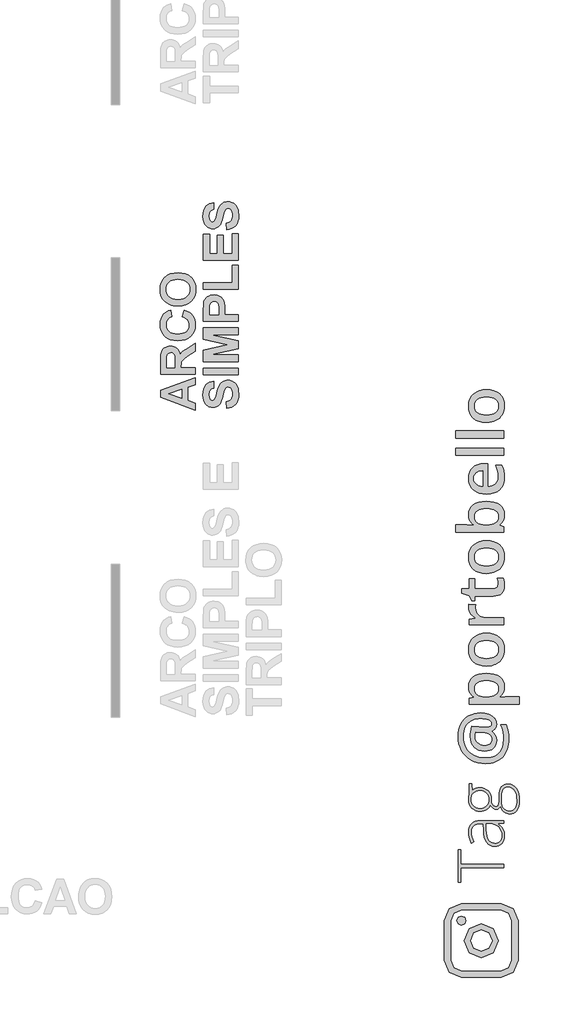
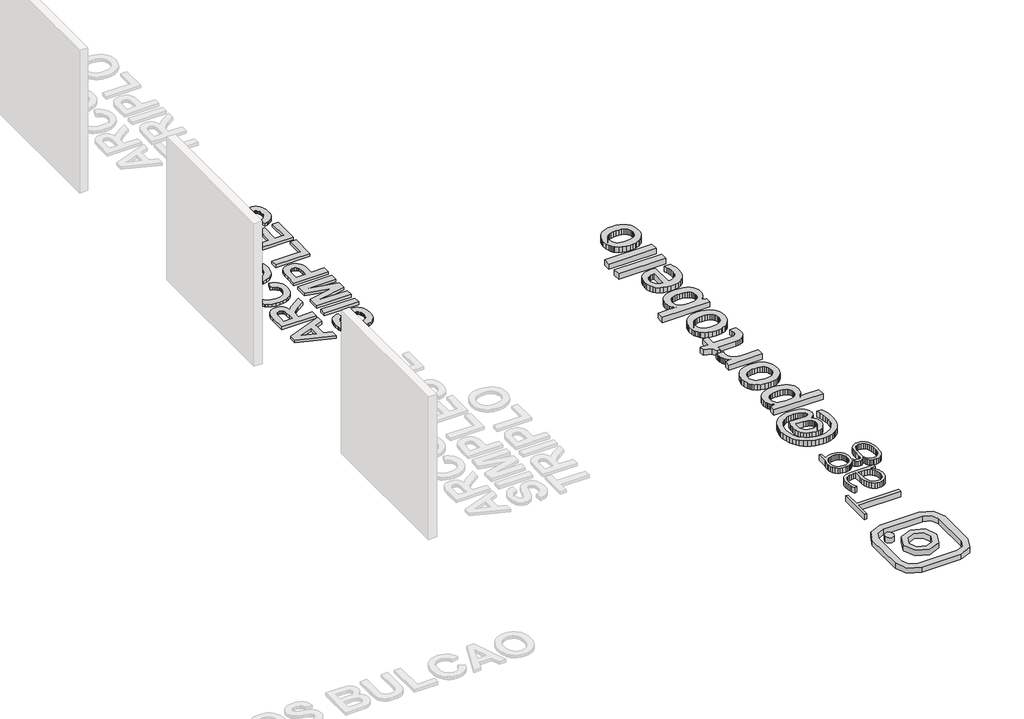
# One storey, part 8 of 12: 4 proxies.
"""IFC4 building model written with IfcOpenShell, lengths in millimetres."""

from ifc_helpers import new_model, si_unit, origin, origin_with_axes, place, context, project, spatial, polyline, outline, extrude, transform, mapped, element, save
from components import generic_models_d67f6705

model = new_model("IFC4")

# Units and contexts
model_context = context("Model", 3, world=origin())
ifc_project = project(units=[si_unit("LENGTHUNIT", "METRE", prefix="MILLI")], contexts=[model_context])

# Site, building, storey
site = spatial("IfcSite", under=ifc_project)
building = spatial("IfcBuilding", under=site)
storey = spatial("IfcBuildingStorey", under=building, Name="PORTOBELLO - SHOWROOM", Elevation=0.0)

# Proxies
placement = place(None, origin())
generic_models_shape = generic_models_d67f6705(model_context)
element("IfcBuildingElementProxy", 1, Name="Blks_Instagram1 : Único 2", ObjectType="Blks_Instagram1 : Único 2", at=placement, inside=storey, context=model_context, shape_type="MappedRepresentation", body=[
    mapped(generic_models_shape, transform((19675.753776, -13159.2204865, 0.0), x_axis=(-1.0, 0.0, 0.0), y_axis=(0.0, -1.0, 0.0), z_axis=(0.0, 0.0, 1.0))),
])
element("IfcBuildingElementProxy", 2, Name="600mm Arial", ObjectType="600mm Arial", at=placement, inside=storey, context=model_context, shape_type="SweptSolid", body=[
    extrude(outline(polyline([(14636.2154342, -3238.3642537), (14636.2154342, -3360.8864763), (14500.1808475, -3408.86296), (14500.1808475, -3640.0913925), (14636.2154342, -3687.4605789), (14636.2154342, -3811.652869), (14024.0597942, -3588.1674766), (14024.0597942, -3463.9751865), (14636.2154342, -3238.3642537)]), holes=[polyline([(14393.2965295, -3446.2117416), (14169.8111371, -3525.0085613), (14393.2965295, -3602.7426109), (14393.2965295, -3446.2117416)])]), origin_with_axes(), (0.0, 0.0, 1.0), 50.0),
    extrude(outline(polyline([(14636.2154342, -3180.0637166), (14024.0597942, -3180.0637166), (14024.0597942, -2922.5696776), (14028.1970068, -2838.6867433), (14033.3685226, -2806.7087468), (14040.6086446, -2781.3730642), (14050.4962032, -2760.4592647), (14063.6100284, -2741.7469178), (14079.9501204, -2725.2360235), (14099.516479, -2710.9265818), (14121.4645816, -2699.3689558), (14144.9499054, -2691.1135086), (14169.9724504, -2686.1602403), (14196.5322166, -2684.5091509), (14229.6394064, -2686.8956394), (14259.7290879, -2694.0551047), (14286.8012612, -2705.987547), (14310.8559262, -2722.6929662), (14331.3142527, -2744.1523843), (14347.5974105, -2770.3468233), (14359.7053997, -2801.276283), (14367.6382201, -2836.9407636), (14392.0060228, -2803.1218974), (14418.6511901, -2775.7555645), (14457.2525223, -2747.4403297), (14517.4888195, -2710.7747575), (14636.2154342, -2635.92537), (14636.2154342, -2772.1117809), (14496.3852397, -2860.7771812), (14442.6963661, -2903.6106162), (14413.4132513, -2930.3886298), (14399.0089193, -2949.708274), (14389.9563945, -2970.1666005), (14385.1739286, -2997.3241749), (14383.5797733, -3036.7415628), (14383.5797733, -3063.4626423), (14636.2154342, -3063.4626423), (14636.2154342, -3180.0637166)]), holes=[polyline([(14276.6954552, -3063.4626423), (14276.6954552, -2967.3578506), (14274.9304975, -2891.502627), (14269.6356245, -2850.6808642), (14260.0327366, -2829.918889), (14245.343734, -2814.2430285), (14225.9671558, -2804.393426), (14202.3015406, -2801.1102252), (14176.0928681, -2805.4372182), (14155.4637393, -2818.4181972), (14140.907583, -2839.2940405), (14132.9178284, -2867.3056267), (14130.9441123, -2962.0439996), (14130.9441123, -3063.4626423), (14276.6954552, -3063.4626423)])]), origin_with_axes(), (0.0, 0.0, 1.0), 50.0),
    extrude(outline(polyline([(14403.0132856, -2169.5210728), (14441.8803104, -2052.9199986), (14487.9827127, -2069.022865), (14527.7559388, -2089.699439), (14561.1999888, -2114.9497204), (14588.3148627, -2144.7737094), (14609.2713627, -2179.0480486), (14624.2402913, -2217.6493808), (14633.2216485, -2260.577706), (14636.2154342, -2307.8330242), (14631.1008526, -2366.2189625), (14615.7571077, -2419.1582035), (14590.1841996, -2466.6507472), (14554.3821282, -2508.6965936), (14509.7078233, -2543.1037791), (14457.5182149, -2567.6803402), (14397.8133028, -2582.4262768), (14330.5930872, -2587.341589), (14259.7101099, -2582.3835762), (14197.215426, -2567.5095378), (14143.1090356, -2542.7194738), (14119.2014504, -2526.6059322), (14097.3909386, -2508.0133842), (14061.0574821, -2465.2226498), (14035.1050132, -2416.1786514), (14019.5335318, -2360.881389), (14014.343038, -2299.3308626), (14018.6225859, -2245.5091427), (14031.4612296, -2197.0012739), (14052.8589691, -2153.8072562), (14082.8158043, -2115.9270895), (14105.2193799, -2096.2183955), (14132.0448386, -2079.1476491), (14163.2921805, -2064.7148501), (14198.9614057, -2052.9199986), (14218.394918, -2169.5210728), (14197.0398792, -2176.8703186), (14178.0665842, -2187.3794079), (14161.4750333, -2201.0483408), (14147.2652262, -2217.8771173), (14135.8736581, -2237.2774181), (14127.7368237, -2258.6609241), (14122.854723, -2282.0276351), (14121.2273561, -2307.3775513), (14124.1831858, -2342.0267068), (14133.0506747, -2373.2503262), (14147.8298229, -2401.0484094), (14168.5206304, -2425.4209566), (14195.8252846, -2445.2482633), (14230.4459731, -2459.4106252), (14272.3826957, -2467.9080423), (14321.6354526, -2470.7405147), (14373.7681269, -2467.9934435), (14417.8161564, -2459.7522299), (14453.7795411, -2446.0168739), (14481.6582811, -2426.7873754), (14502.5151464, -2403.1549718), (14517.4129074, -2376.2109003), (14526.3515639, -2345.9551609), (14529.3311161, -2312.3877537), (14527.4285677, -2287.3984203), (14521.7209223, -2264.2025116), (14512.20818, -2242.8000276), (14498.8903409, -2223.1909684), (14481.4827342, -2205.8023397), (14459.7006894, -2191.0611476), (14433.5442066, -2178.967392), (14403.0132856, -2169.5210728)])), origin_with_axes(), (0.0, 0.0, 1.0), 50.0),
    extrude(outline(polyline([(14333.9332221, -1975.185949), (14289.126071, -1973.4684365), (14248.0765717, -1968.3158988), (14210.7847242, -1959.7283359), (14177.2505285, -1947.7057479), (14133.0127186, -1923.4707916), (14093.5194186, -1891.7584877), (14061.1998174, -1854.6184645), (14038.4831042, -1814.1003503), (14027.9218253, -1784.9311037), (14020.3780546, -1753.5983606), (14015.8517922, -1720.102121), (14014.343038, -1684.4423849), (14019.5762324, -1621.3404038), (14035.2758155, -1564.8807365), (14061.4417874, -1515.063383), (14098.074148, -1471.8883433), (14120.0281813, -1453.2068357), (14144.024726, -1437.0161958), (14198.14535, -1412.107519), (14260.4360199, -1397.162313), (14330.8967358, -1392.1805776), (14400.8782562, -1397.1243569), (14462.7941099, -1411.9556947), (14516.6442968, -1436.6745911), (14540.5447652, -1452.7418737), (14562.4288169, -1471.281046), (14598.9615428, -1514.1714151), (14625.056347, -1563.7420541), (14640.7132296, -1619.992963), (14645.9321904, -1682.9241418), (14640.7369521, -1746.5195519), (14625.1512372, -1803.2449118), (14599.1750457, -1853.1002214), (14562.8083777, -1896.0854807), (14517.3322507, -1930.6919356), (14464.0276824, -1955.4108319), (14402.8946729, -1970.2421698), (14333.9332221, -1975.185949)]), holes=[polyline([(14329.6821413, -1858.5848748), (14378.1046089, -1855.4867098), (14420.2833015, -1846.192215), (14456.2182192, -1830.7013903), (14485.9093619, -1809.0142358), (14509.1574602, -1782.5541043), (14525.7632447, -1752.7443488), (14535.7267154, -1719.5849694), (14539.0478723, -1683.0759661), (14535.750438, -1646.6049188), (14525.8581349, -1613.5594076), (14509.3709631, -1583.9394326), (14486.2889227, -1557.7449936), (14456.6120135, -1536.3235316), (14420.3402356, -1521.0224873), (14377.4735891, -1511.8418608), (14328.0120738, -1508.7816519), (14279.2385125, -1511.7612041), (14237.0693088, -1520.6998607), (14201.5044629, -1535.5976216), (14172.5439748, -1556.454487), (14150.0929541, -1582.2456426), (14134.0565108, -1611.9462743), (14124.4346448, -1645.5563821), (14121.2273561, -1683.0759661), (14124.4726009, -1720.6335061), (14134.2083351, -1754.3574822), (14150.4345588, -1784.2478943), (14173.151272, -1810.3047424), (14202.4059198, -1831.4273003), (14238.2459473, -1846.5148417), (14280.6713544, -1855.5673665), (14329.6821413, -1858.5848748)])]), origin_with_axes(), (0.0, 0.0, 1.0), 50.0),
    extrude(outline(polyline([(15187.6316533, -3782.5026004), (15177.9148971, -3665.9015261), (15205.9834174, -3658.8416954), (15230.0665494, -3648.8972028), (15250.1642932, -3636.0680481), (15266.2766487, -3620.3542315), (15278.6313523, -3601.7083077), (15287.4561407, -3580.0828318), (15292.7510137, -3555.4778037), (15294.5159713, -3527.8932233), (15292.9550276, -3498.9042681), (15288.2721964, -3473.7298988), (15280.4674777, -3452.3701154), (15269.5408715, -3434.824918), (15256.5266809, -3421.1417515), (15242.4592092, -3411.3680612), (15227.3384563, -3405.503847), (15211.1644222, -3403.549109), (15191.3323709, -3406.7943537), (15174.6506743, -3416.5300879), (15160.549991, -3434.3884231), (15148.4609799, -3462.0014704), (15122.4990219, -3563.1164645), (15109.8311806, -3610.0491561), (15095.6640742, -3649.4285879), (15079.9977026, -3681.25476), (15062.8320659, -3705.5276724), (15036.2533217, -3730.7020418), (15006.9227618, -3748.6837341), (14974.8403861, -3759.4727495), (14940.0061947, -3763.069088), (14917.0807231, -3761.4179986), (14894.914373, -3756.4647303), (14873.5071446, -3748.2092831), (14852.8590376, -3736.6516571), (14833.795597, -3721.9816326), (14817.1423674, -3704.3889901), (14802.8993488, -3683.8737294), (14791.0665413, -3660.4358507), (14781.7673019, -3634.2556453), (14775.1249881, -3605.5134046), (14769.8111371, -3540.3428172), (14773.122805, -3486.4309517), (14783.0578086, -3439.6263619), (14799.616148, -3399.929048), (14822.7978232, -3367.3390097), (14851.5021078, -3341.7518681), (14884.6282757, -3323.0632437), (14922.1763267, -3311.2731367), (14964.1462609, -3306.3815471), (14964.1462609, -3422.9826214), (14942.4780844, -3428.2537718), (14924.0836196, -3435.8687101), (14908.9628667, -3445.8274363), (14897.1158256, -3458.1299504), (14888.1819135, -3473.2886594), (14881.8005478, -3491.8159704), (14876.6954552, -3538.9763984), (14882.1231745, -3588.6229495), (14888.9078236, -3608.8914956), (14898.4063323, -3626.1235555), (14914.7274462, -3641.3818992), (14935.7551139, -3646.4680137), (14955.6061431, -3641.8373721), (14972.3447739, -3627.9454472), (14982.0662746, -3611.9801716), (14991.9490887, -3587.6171134), (15012.1986567, -3513.6976498), (15033.2642805, -3434.8059399), (15055.3167623, -3379.5608671), (15082.0188638, -3340.8456667), (15117.0333466, -3311.5435738), (15137.7668546, -3300.7830254), (15160.7967055, -3293.0969195), (15186.1228991, -3288.4852559), (15213.7454355, -3286.9480347), (15239.4417009, -3288.765182), (15264.3029326, -3294.2166238), (15288.3291305, -3303.3023602), (15311.5202947, -3316.0223911), (15332.832633, -3332.0683234), (15351.2223532, -3351.1317641), (15366.6894553, -3373.2127129), (15379.2339394, -3398.3111701), (15388.9317175, -3426.5552373), (15395.8587019, -3458.0730163), (15401.4002894, -3530.9297097), (15397.9889869, -3585.4156609), (15387.7550791, -3633.1833861), (15370.6985661, -3674.2328854), (15346.819448, -3708.5641588), (15316.4023953, -3736.4144316), (15279.7320786, -3758.0209295), (15236.8084979, -3773.3836524), (15187.6316533, -3782.5026004)])), origin_with_axes(), (0.0, 0.0, 1.0), 50.0),
    extrude(outline(polyline([(15391.6835332, -3189.7804728), (14779.5278933, -3189.7804728), (14779.5278933, -3073.1793985), (15391.6835332, -3073.1793985), (15391.6835332, -3189.7804728)])), origin_with_axes(), (0.0, 0.0, 1.0), 50.0),
    extrude(outline(polyline([(15391.6835332, -2956.5783242), (14779.5278933, -2956.5783242), (14779.5278933, -2756.7775251), (15197.0447608, -2660.2172604), (14779.5278933, -2563.6569958), (14779.5278933, -2363.8561966), (15391.6835332, -2363.8561966), (15391.6835332, -2480.4572709), (14909.7931559, -2485.315649), (15391.6835332, -2591.8963185), (15391.6835332, -2728.3863781), (14909.7931559, -2835.1188719), (15391.6835332, -2839.9772499), (15391.6835332, -2956.5783242)])), origin_with_axes(), (0.0, 0.0, 1.0), 50.0),
    extrude(outline(polyline([(15391.6835332, -2247.2551224), (14779.5278933, -2247.2551224), (14779.5278933, -2050.0353366), (14781.805258, -1957.384548), (14788.6373522, -1903.8285208), (14797.4858631, -1878.7063411), (14810.3672074, -1855.7191908), (14827.281385, -1834.86707), (14848.228396, -1816.1499786), (14872.8571467, -1800.706599), (14900.8165433, -1789.6756136), (14932.1065858, -1783.0570223), (14966.7272742, -1780.8508252), (15018.2906074, -1786.03183), (15040.7273945, -1792.508086), (15060.934262, -1801.5748443), (15095.0188208, -1825.1076132), (15120.9048666, -1854.2578818), (15139.0288943, -1886.4636147), (15149.8273987, -1919.1627766), (15156.3178882, -1974.0093106), (15158.4813847, -2048.9725664), (15158.4813847, -2130.6540481), (15391.6835332, -2130.6540481), (15391.6835332, -2247.2551224)]), holes=[polyline([(14886.4122114, -2130.6540481), (15051.5970666, -2130.6540481), (15051.5970666, -2058.2338496), (15049.3197019, -1993.0063281), (15042.4876077, -1953.7028084), (15030.7781573, -1930.2079956), (15013.8687242, -1912.4065946), (14992.7841224, -1901.1905733), (14968.549166, -1897.4518995), (14939.5886779, -1902.7088164), (14916.1697772, -1918.4795672), (14899.3931903, -1942.2590506), (14890.3596436, -1971.5421655), (14886.4122114, -2066.7360113), (14886.4122114, -2130.6540481)])]), origin_with_axes(), (0.0, 0.0, 1.0), 50.0),
    extrude(outline(polyline([(15391.6835332, -1683.6832633), (14779.5278933, -1683.6832633), (14779.5278933, -1567.0821891), (15284.7992152, -1567.0821891), (15284.7992152, -1256.145991), (15391.6835332, -1256.145991), (15391.6835332, -1683.6832633)])), origin_with_axes(), (0.0, 0.0, 1.0), 50.0),
    extrude(outline(polyline([(15391.6835332, -1168.6951853), (14779.5278933, -1168.6951853), (14779.5278933, -712.0076443), (14886.4122114, -712.0076443), (14886.4122114, -1052.094111), (15022.446798, -1052.094111), (15022.446798, -731.4411567), (15129.3311161, -731.4411567), (15129.3311161, -1052.094111), (15284.7992152, -1052.094111), (15284.7992152, -702.2908881), (15391.6835332, -702.2908881), (15391.6835332, -1168.6951853)])), origin_with_axes(), (0.0, 0.0, 1.0), 50.0),
    extrude(outline(polyline([(15187.6316533, -634.2735948), (15177.9148971, -517.6725205), (15205.9834174, -510.6126899), (15230.0665494, -500.6681972), (15250.1642932, -487.8390425), (15266.2766487, -472.1252259), (15278.6313523, -453.4793021), (15287.4561407, -431.8538262), (15292.7510137, -407.2487981), (15294.5159713, -379.6642178), (15292.9550276, -350.6752625), (15288.2721964, -325.5008932), (15280.4674777, -304.1411098), (15269.5408715, -286.5959124), (15256.5266809, -272.9127459), (15242.4592092, -263.1390556), (15227.3384563, -257.2748415), (15211.1644222, -255.3201034), (15191.3323709, -258.5653481), (15174.6506743, -268.3010824), (15160.549991, -286.1594175), (15148.4609799, -313.7724648), (15122.4990219, -414.887459), (15109.8311806, -461.8201505), (15095.6640742, -501.1995823), (15079.9977026, -533.0257544), (15062.8320659, -557.2986669), (15036.2533217, -582.4730362), (15006.9227618, -600.4547285), (14974.8403861, -611.243744), (14940.0061947, -614.8400824), (14917.0807231, -613.188993), (14894.914373, -608.2357247), (14873.5071446, -599.9802775), (14852.8590376, -588.4226515), (14833.795597, -573.752627), (14817.1423674, -556.1599845), (14802.8993488, -535.6447239), (14791.0665413, -512.2068452), (14781.7673019, -486.0266398), (14775.1249881, -457.284399), (14769.8111371, -392.1138116), (14773.122805, -338.2019461), (14783.0578086, -291.3973564), (14799.616148, -251.7000424), (14822.7978232, -219.1100042), (14851.5021078, -193.5228625), (14884.6282757, -174.8342382), (14922.1763267, -163.0441312), (14964.1462609, -158.1525415), (14964.1462609, -274.7536158), (14942.4780844, -280.0247662), (14924.0836196, -287.6397045), (14908.9628667, -297.5984307), (14897.1158256, -309.9009448), (14888.1819135, -325.0596538), (14881.8005478, -343.5869648), (14876.6954552, -390.7473928), (14882.1231745, -440.3939439), (14888.9078236, -460.6624901), (14898.4063323, -477.8945499), (14914.7274462, -493.1528936), (14935.7551139, -498.2390081), (14955.6061431, -493.6083665), (14972.3447739, -479.7164417), (14982.0662746, -463.751166), (14991.9490887, -439.3881079), (15012.1986567, -365.4686443), (15033.2642805, -286.5769343), (15055.3167623, -231.3318615), (15082.0188638, -192.6166611), (15117.0333466, -163.3145682), (15137.7668546, -152.5540199), (15160.7967055, -144.8679139), (15186.1228991, -140.2562503), (15213.7454355, -138.7190291), (15239.4417009, -140.5361764), (15264.3029326, -145.9876182), (15288.3291305, -155.0733546), (15311.5202947, -167.7933855), (15332.832633, -183.8393179), (15351.2223532, -202.9027585), (15366.6894553, -224.9837074), (15379.2339394, -250.0821645), (15388.9317175, -278.3262317), (15395.8587019, -309.8440107), (15401.4002894, -382.7007041), (15397.9889869, -437.1866553), (15387.7550791, -484.9543805), (15370.6985661, -526.0038798), (15346.819448, -560.3351532), (15316.4023953, -588.185426), (15279.7320786, -609.7919239), (15236.8084979, -625.1546469), (15187.6316533, -634.2735948)])), origin_with_axes(), (0.0, 0.0, 1.0), 50.0),
])
element("IfcBuildingElementProxy", 3, Name="80mm OpenSans Bold", ObjectType="80mm OpenSans Bold", at=placement, inside=storey, context=model_context, shape_type="SweptSolid", body=[
    extrude(outline(polyline([(19665.5738359, -9147.8848841), (19703.6794506, -9149.4322439), (19740.1175221, -9154.0743235), (19774.8880504, -9161.8111229), (19807.9910356, -9172.642642), (19838.4725228, -9186.2834455), (19865.378557, -9202.4480981), (19888.7091384, -9221.1365999), (19908.4642668, -9242.3489507), (19924.1857436, -9265.694555), (19935.4153698, -9290.782817), (19942.1531456, -9317.6137367), (19944.3990708, -9346.1873141), (19938.6903645, -9386.8092664), (19931.5544816, -9404.9569433), (19921.5642455, -9421.6624208), (19909.1402978, -9436.3398052), (19894.70328, -9448.403203), (19878.2531921, -9457.8526142), (19859.790034, -9464.6880389), (19859.790034, -9471.4183032), (19896.8064876, -9501.5843092), (19923.2468116, -9538.240213), (19939.111006, -9580.604823), (19944.3990708, -9627.896948), (19940.8461523, -9670.5620163), (19930.1873967, -9708.4197529), (19912.422804, -9741.4701579), (19887.5523742, -9769.7132313), (19856.6126883, -9792.3227129), (19820.640327, -9808.4723426), (19779.6352904, -9818.1621204), (19733.5975786, -9821.3920464), (19680.4540296, -9817.1105166), (19632.5534767, -9804.2659274), (19589.8959199, -9782.8582787), (19552.4813591, -9752.8875705), (19522.0374293, -9715.7058649), (19500.2917651, -9672.6652238), (19487.2443665, -9623.7656474), (19482.8952337, -9569.0071354), (19484.7280289, -9524.6895469), (19490.2264144, -9475.865085), (19498.9697489, -9427.6415395), (19510.5373906, -9385.1267003), (19761.7204686, -9397.385396), (19774.4598975, -9397.385396), (19812.3176341, -9393.7798973), (19839.3588746, -9382.9634011), (19848.8233087, -9374.851029), (19855.5836188, -9364.9359075), (19860.9918669, -9339.6974164), (19857.5290859, -9318.9432643), (19847.1407426, -9300.4275261), (19829.8268373, -9284.1502016), (19805.5873698, -9270.1112909), (19775.984723, -9258.8065501), (19742.5812795, -9250.7317353), (19705.3770396, -9245.8868463), (19664.372003, -9244.2718834), (19619.2807345, -9246.6905721), (19577.0287963, -9253.9466383), (19537.6161883, -9266.0400819), (19501.0429106, -9282.9709031), (19467.9023682, -9304.3635288), (19438.7879659, -9329.8423865), (19413.699704, -9359.4074761), (19392.6375822, -9393.0587975), (19375.9696621, -9430.0602282), (19364.0640048, -9469.6756455), (19356.9206105, -9511.9050493), (19354.539479, -9556.7484398), (19357.5290384, -9613.7228311), (19366.4977165, -9666.8663801), (19381.4455133, -9716.1790866), (19402.3724288, -9761.6609508), (19428.8503101, -9802.6509644), (19460.4510041, -9838.4881195), (19497.174511, -9869.1724159), (19539.0208306, -9894.7038538), (19585.2087716, -9914.7894863), (19634.9571425, -9929.1363667), (19688.2659435, -9937.7444949), (19745.1351745, -9940.6138709), (19819.3107993, -9935.258203), (19884.3975628, -9919.1911993), (19913.5326216, -9907.1409466), (19940.3954649, -9892.4128598), (19964.986093, -9875.0069391), (19987.3045057, -9854.9231845), (20007.1629166, -9832.3381151), (20024.3735395, -9807.4282502), (20038.9363742, -9780.1935898), (20050.8514207, -9750.6341338), (20066.7381495, -9684.5408353), (20072.0337258, -9609.1483546), (20068.939006, -9547.4342347), (20059.6548468, -9484.3980986), (20044.1812481, -9420.0399463), (20022.5182099, -9354.3597779), (20112.6556781, -9354.3597779), (20133.2671125, -9413.5800945), (20147.9895656, -9475.3843518), (20156.8230375, -9539.7725499), (20159.7675281, -9606.7446888), (20158.071817, -9656.3597314), (20152.9846837, -9703.1692454), (20144.5061281, -9747.1732306), (20132.6361502, -9788.3716872), (20117.3747501, -9826.764615), (20098.7219278, -9862.3520142), (20076.6776832, -9895.1338846), (20051.2420164, -9925.1102264), (20022.7717215, -9951.8979552), (19991.6235927, -9975.1139869), (19957.7976299, -9994.7583214), (19921.2938331, -10010.8309587), (19882.1122024, -10023.3318988), (19840.2527378, -10032.2611417), (19795.7154392, -10037.6186875), (19748.5003066, -10039.4045361), (19679.4324716, -10035.5436479), (19614.2856165, -10023.9609832), (19553.0597412, -10004.6565421), (19495.7548458, -9977.6303245), (19443.6553892, -9943.7536594), (19398.0458303, -9903.8978756), (19358.9261691, -9858.062973), (19326.2964056, -9806.2489517), (19300.5846928, -9749.6275988), (19282.2191837, -9689.3707013), (19271.1998782, -9625.4782592), (19267.5267764, -9557.9502727), (19270.5914503, -9499.7289797), (19279.7854721, -9444.7676584), (19295.1088416, -9393.066309), (19316.5615591, -9344.6249313), (19343.6779141, -9300.442549), (19375.9921964, -9261.5181856), (19413.5044061, -9227.8518413), (19456.2145431, -9199.4435159), (19503.2813244, -9176.8866145), (19553.863467, -9160.774542), (19607.9609708, -9151.1072986), (19665.5738359, -9147.8848841)]), holes=[polyline([(19735.5205112, -9716.1114835), (19764.9278602, -9714.5228106), (19790.4142293, -9709.756792), (19811.9796186, -9701.8134276), (19829.624028, -9690.6927175), (19843.3474575, -9676.3946616), (19853.1499072, -9658.9192599), (19859.031377, -9638.2665125), (19860.9918669, -9614.4364194), (19858.5281095, -9589.1528596), (19851.1368371, -9566.9039278), (19838.8180497, -9547.6896242), (19821.5717475, -9531.5099487), (19799.3979303, -9518.3649012), (19772.2965982, -9508.2544819), (19740.2677512, -9501.1786906), (19703.3113892, -9497.1375275), (19574.715268, -9490.4072632), (19567.8648204, -9526.702617), (19565.5813379, -9565.4016367), (19568.4432025, -9599.0154009), (19577.0287963, -9628.7081852), (19591.3381194, -9654.4799896), (19611.3711717, -9676.3308142), (19636.3016931, -9693.734857), (19665.3034235, -9706.1663162), (19698.3763629, -9713.6251917), (19735.5205112, -9716.1114835)])]), origin_with_axes(), (0.0, 0.0, 1.0), 100.0),
    extrude(outline(polyline([(20082.850222, -8689.2654459), (20077.6522946, -8742.8221249), (20062.0585126, -8790.0391354), (20036.068876, -8830.9164772), (19999.6833846, -8865.4541504), (19999.6833846, -8873.145881), (20093.6667181, -8865.4541504), (20344.369063, -8865.4541504), (20344.369063, -8994.2906383), (19467.5117725, -8994.2906383), (19467.5117725, -8889.9715418), (19544.6694452, -8871.9440481), (19544.6694452, -8865.4541504), (19522.980117, -8849.6237576), (19504.1826991, -8831.9380352), (19488.2771917, -8812.3969832), (19475.2635947, -8791.0006017), (19465.1419082, -8767.7488906), (19457.9121321, -8742.64185), (19452.1283112, -8686.8617801), (19457.2886813, -8634.0562467), (19472.7697914, -8587.4101069), (19498.5716417, -8546.9233608), (19534.6942321, -8512.5960083), (19580.1310275, -8485.2543096), (19633.8754929, -8465.7245248), (19695.9276283, -8454.006654), (19766.2874337, -8450.100697), (19836.8200025, -8454.0742571), (19899.1500618, -8465.9949372), (19953.2776114, -8485.8627375), (19999.2026515, -8513.6776579), (20035.7984636, -8548.493255), (20061.9383293, -8589.3630854), (20077.6222488, -8636.287149), (20082.850222, -8689.2654459)]), holes=[polyline([(19559.8125399, -8720.7534682), (19562.6068014, -8755.8394776), (19570.9895859, -8785.862766), (19584.9608935, -8810.8233332), (19604.5207241, -8830.7211793), (19630.2099025, -8845.9168542), (19662.5692536, -8856.7709076), (19701.5987773, -8863.2833397), (19747.2984737, -8865.4541504), (19766.2874337, -8865.4541504), (19817.6357447, -8863.3058741), (19861.3524168, -8856.8610451), (19897.4374499, -8846.1196635), (19925.890844, -8831.0817292), (19947.4487218, -8811.1613487), (19962.847206, -8785.7726285), (19972.0862965, -8754.9155686), (19975.1659933, -8718.5901689), (19971.7557924, -8687.6655059), (19961.5251898, -8660.5115936), (19944.4741854, -8637.128432), (19920.6027792, -8617.5160213), (19890.4367732, -8602.0048653), (19854.5019692, -8590.9254681), (19812.7983673, -8584.2778299), (19765.3259674, -8582.0619504), (19717.6958269, -8584.2628069), (19676.240103, -8590.8653765), (19640.9587956, -8601.8696591), (19611.8519049, -8617.2756547), (19589.0846827, -8636.9481571), (19572.8223811, -8660.7519602), (19563.0650002, -8688.6870638), (19559.8125399, -8720.7534682)])]), origin_with_axes(), (0.0, 0.0, 1.0), 100.0),
    extrude(outline(polyline([(19766.2874337, -7741.9807469), (19836.8200025, -7746.7880786), (19899.1500618, -7761.2100735), (19953.2776114, -7785.2467317), (19999.2026515, -7818.8980531), (20018.8075508, -7839.0700674), (20035.7984636, -7861.127457), (20050.1753897, -7885.070222), (20061.9383293, -7910.8983623), (20077.6222488, -7968.2107692), (20082.850222, -8033.0646775), (20080.4390447, -8074.7156993), (20073.2055129, -8113.8578949), (20061.1496265, -8150.4912642), (20044.2713856, -8184.6158074), (20022.8937827, -8215.5930506), (19997.3398105, -8242.7845202), (19967.6094689, -8266.1902161), (19933.7027579, -8285.8101383), (19896.2431284, -8301.3212943), (19855.8540312, -8312.4006914), (19812.5354663, -8319.0483297), (19766.2874337, -8321.2642091), (19696.318224, -8316.4944348), (19634.4764094, -8302.1851117), (19580.7619898, -8278.3362399), (19535.1749653, -8244.9478194), (19515.7109057, -8224.8903549), (19498.8420541, -8202.8761561), (19484.5684105, -8178.9052232), (19472.8899747, -8152.977556), (19457.3187271, -8095.2520191), (19452.1283112, -8029.6995454), (19457.4464219, -7966.806127), (19473.4007537, -7910.8082249), (19499.9913068, -7861.7058391), (19537.2180812, -7819.4989696), (19583.4435795, -7785.5847472), (19637.0303043, -7761.3603026), (19697.9782557, -7746.8256359), (19766.2874337, -7741.9807469)]), holes=[polyline([(19766.2874337, -8188.581856), (19815.2433461, -8186.1180985), (19857.6718035, -8178.7268261), (19893.5728059, -8166.4080388), (19922.9463534, -8149.1617366), (19945.7924458, -8126.9879194), (19962.1110833, -8099.8865873), (19971.9022658, -8067.8577403), (19975.1659933, -8030.9013783), (19971.9022658, -7994.2830318), (19962.1110833, -7962.5471316), (19945.7924458, -7935.6936775), (19922.9463534, -7913.7226697), (19893.5728059, -7896.634108), (19857.6718035, -7884.4279925), (19815.2433461, -7877.1043232), (19766.2874337, -7874.6631001), (19717.8948804, -7877.1193461), (19675.9546676, -7884.4880841), (19640.4667953, -7896.7693142), (19611.4312633, -7913.9630362), (19588.8480718, -7936.0692503), (19572.7172208, -7963.0879564), (19563.0387101, -7995.0191545), (19559.8125399, -8031.8628446), (19563.1476262, -8070.2538946), (19573.1528852, -8102.981307), (19589.8283168, -8130.0450818), (19613.1739211, -8151.4452191), (19642.7540335, -8167.6924977), (19678.1329898, -8179.2976968), (19719.3107898, -8186.2608162), (19766.2874337, -8188.581856)])]), origin_with_axes(), (0.0, 0.0, 1.0), 100.0),
    extrude(outline(polyline([(19452.1283112, -7291.293406), (19453.5104191, -7256.6205266), (19457.6567426, -7228.5577281), (19577.8400335, -7240.8164238), (19572.7923353, -7268.2182142), (19571.1097692, -7296.5814708), (19574.2495577, -7332.6364581), (19583.6689231, -7365.0859466), (19599.3678655, -7393.9299364), (19621.3463848, -7419.1684275), (19648.3425566, -7439.6747016), (19679.0944561, -7454.3220401), (19713.6020835, -7463.1104433), (19751.8654388, -7466.039911), (20067.4667607, -7466.039911), (20067.4667607, -7594.8763989), (19467.5117725, -7594.8763989), (19467.5117725, -7493.9224345), (19569.6675697, -7476.8564072), (19569.6675697, -7470.3665095), (19544.02346, -7454.5699182), (19521.1736119, -7436.5048673), (19501.1180252, -7416.1713567), (19483.8567, -7393.5693866), (19469.9755299, -7369.3749878), (19460.0604084, -7344.2641915), (19454.1113355, -7318.2369975), (19452.1283112, -7291.293406)])), origin_with_axes(), (0.0, 0.0, 1.0), 100.0),
    extrude(outline(polyline([(19975.1659933, -6872.3344539), (19971.5004029, -6824.4414124), (19960.5036318, -6776.4281877), (20060.2557633, -6776.4281877), (20069.0892351, -6801.1859457), (20076.3603242, -6832.1932347), (20081.2277475, -6866.9262058), (20082.850222, -6902.8610098), (20079.8155939, -6946.2396663), (20070.7117096, -6983.834502), (20055.5385691, -7015.6455168), (20034.2961724, -7041.6727108), (20006.9845196, -7061.9160838), (19973.6036105, -7076.375636), (19934.1534453, -7085.0513673), (19888.6340238, -7087.9432778), (19559.8125399, -7087.9432778), (19559.8125399, -7171.5908483), (19505.730059, -7171.5908483), (19461.0218748, -7081.9341132), (19329.0606213, -7037.9470288), (19329.0606213, -6958.3856902), (19467.5117725, -6958.3856902), (19467.5117725, -6782.6777189), (19559.8125399, -6782.6777189), (19559.8125399, -6958.3856902), (19884.3074254, -6958.3856902), (19905.9929979, -6956.9059334), (19924.6589653, -6952.4666631), (19940.3053275, -6945.0678792), (19952.9320845, -6934.7095819), (19962.6594196, -6921.9325957), (19969.6075161, -6907.2777457), (19975.1659933, -6872.3344539)])), origin_with_axes(), (0.0, 0.0, 1.0), 100.0),
    extrude(outline(polyline([(19766.2874337, -6111.3338558), (19836.8200025, -6116.1411874), (19899.1500618, -6130.5631823), (19953.2776114, -6154.5998405), (19999.2026515, -6188.251162), (20018.8075508, -6208.4231762), (20035.7984636, -6230.4805658), (20050.1753897, -6254.4233308), (20061.9383293, -6280.2514712), (20077.6222488, -6337.563878), (20082.850222, -6402.4177864), (20080.4390447, -6444.0688082), (20073.2055129, -6483.2110037), (20061.1496265, -6519.8443731), (20044.2713856, -6553.9689162), (20022.8937827, -6584.9461595), (19997.3398105, -6612.137629), (19967.6094689, -6635.543325), (19933.7027579, -6655.1632472), (19896.2431284, -6670.6744032), (19855.8540312, -6681.7538003), (19812.5354663, -6688.4014386), (19766.2874337, -6690.617318), (19696.318224, -6685.8475437), (19634.4764094, -6671.5382206), (19580.7619898, -6647.6893488), (19535.1749653, -6614.3009283), (19515.7109057, -6594.2434637), (19498.8420541, -6572.229265), (19484.5684105, -6548.2583321), (19472.8899747, -6522.3306649), (19457.3187271, -6464.605128), (19452.1283112, -6399.0526543), (19457.4464219, -6336.1592358), (19473.4007537, -6280.1613337), (19499.9913068, -6231.0589479), (19537.2180812, -6188.8520784), (19583.4435795, -6154.937856), (19637.0303043, -6130.7134115), (19697.9782557, -6116.1787447), (19766.2874337, -6111.3338558)]), holes=[polyline([(19766.2874337, -6557.9349648), (19815.2433461, -6555.4712074), (19857.6718035, -6548.079935), (19893.5728059, -6535.7611477), (19922.9463534, -6518.5148454), (19945.7924458, -6496.3410282), (19962.1110833, -6469.2396961), (19971.9022658, -6437.2108491), (19975.1659933, -6400.2544872), (19971.9022658, -6363.6361407), (19962.1110833, -6331.9002405), (19945.7924458, -6305.0467864), (19922.9463534, -6283.0757785), (19893.5728059, -6265.9872168), (19857.6718035, -6253.7811014), (19815.2433461, -6246.4574321), (19766.2874337, -6244.016209), (19717.8948804, -6246.472455), (19675.9546676, -6253.841193), (19640.4667953, -6266.122423), (19611.4312633, -6283.3161451), (19588.8480718, -6305.4223592), (19572.7172208, -6332.4410653), (19563.0387101, -6364.3722634), (19559.8125399, -6401.2159535), (19563.1476262, -6439.6070035), (19573.1528852, -6472.3344159), (19589.8283168, -6499.3981907), (19613.1739211, -6520.7983279), (19642.7540335, -6537.0456066), (19678.1329898, -6548.6508056), (19719.3107898, -6555.613925), (19766.2874337, -6557.9349648)])]), origin_with_axes(), (0.0, 0.0, 1.0), 100.0),
    extrude(outline(polyline([(19452.1283112, -5656.3199164), (19457.2886813, -5603.514383), (19472.7697914, -5556.8682432), (19498.5716417, -5516.381497), (19534.6942321, -5482.0541446), (19580.1310275, -5454.7124459), (19633.8754929, -5435.1826611), (19695.9276283, -5423.4647902), (19766.2874337, -5419.5588333), (19837.0153004, -5423.509859), (19899.45052, -5435.362936), (19953.5930926, -5455.1180645), (19999.4430181, -5482.7752443), (20035.9336698, -5517.4631467), (20061.998421, -5558.3104427), (20077.6372717, -5605.3171323), (20082.850222, -5658.4832156), (20077.6522946, -5712.145055), (20062.0585126, -5759.43718), (20036.068876, -5800.3595906), (19999.6833846, -5834.9122867), (19999.6833846, -5843.5654836), (20067.4667607, -5867.1214087), (20067.4667607, -5963.7487746), (19221.3763927, -5963.7487746), (19221.3763927, -5834.9122867), (19421.3613888, -5834.9122867), (19487.3420155, -5837.0755859), (19542.9868792, -5840.2003515), (19542.9868792, -5834.9122867), (19521.6919023, -5818.8715731), (19503.2362557, -5801.0356216), (19487.6199393, -5781.4044321), (19474.8429532, -5759.9780048), (19464.9052973, -5736.7563396), (19457.8069717, -5711.7394364), (19452.1283112, -5656.3199164)]), holes=[polyline([(19559.8125399, -5690.2116044), (19562.6593816, -5725.7558127), (19571.1999067, -5755.9518646), (19585.4341152, -5780.79976), (19605.3620071, -5800.2994989), (19631.9600717, -5815.0820437), (19666.2047982, -5825.7783566), (19708.0961865, -5832.3884376), (19757.6342367, -5834.9122867), (19766.2874337, -5834.9122867), (19817.6357447, -5832.7640104), (19861.3524168, -5826.3191814), (19897.4374499, -5815.5777998), (19925.890844, -5800.5398655), (19947.4487218, -5780.619485), (19962.847206, -5755.2307648), (19972.0862965, -5724.3737049), (19975.1659933, -5688.0483052), (19971.7933497, -5656.5377486), (19961.6754189, -5629.0683552), (19944.8122009, -5605.6401249), (19921.2036957, -5586.2530578), (19891.225476, -5571.0573829), (19855.2531148, -5560.2033295), (19813.2866119, -5553.6908974), (19765.3259674, -5551.5200867), (19717.1587578, -5553.6871417), (19675.4138428, -5560.1883066), (19640.0912225, -5571.0235814), (19611.1908968, -5586.1929661), (19588.7128656, -5605.6964608), (19572.6571291, -5629.5340654), (19563.0236872, -5657.70578), (19559.8125399, -5690.2116044)])]), origin_with_axes(), (0.0, 0.0, 1.0), 100.0),
    extrude(outline(polyline([(20082.850222, -4990.7448513), (20077.674829, -5057.5592496), (20062.1486501, -5116.6668944), (20050.5040159, -5143.3306842), (20036.2716853, -5168.0677856), (20019.4516581, -5190.8781986), (20000.0439345, -5211.7619233), (19954.7273224, -5246.6225891), (19901.5837734, -5271.5230647), (19840.6132877, -5286.4633501), (19771.8158651, -5291.4434452), (19701.2832962, -5286.8238999), (19638.7128704, -5272.9652642), (19584.1045876, -5249.867538), (19537.4584478, -5217.5307213), (19500.126513, -5177.1115782), (19473.4608454, -5129.7668731), (19457.4614448, -5075.4966058), (19452.1283112, -5014.3007763), (19456.6201617, -4957.5817745), (19470.0957132, -4907.1273267), (19492.5549657, -4862.9374329), (19523.9979192, -4825.0120931), (19563.3128782, -4794.5681633), (19609.3881474, -4772.8224991), (19662.2237267, -4759.7751005), (19721.819616, -4755.4259677), (19790.5644584, -4755.4259677), (19790.5644584, -5158.761092), (19832.4633582, -5154.7950434), (19869.2244224, -5145.54093), (19900.8476508, -5130.9987518), (19927.3330435, -5111.1685088), (19948.259959, -5086.4107509), (19963.2077558, -5057.0860279), (19972.1764339, -5023.1943399), (19975.1659933, -4984.7356868), (19972.6421442, -4932.9667342), (19965.0705969, -4884.863372), (19951.6100683, -4836.8801931), (19931.4192754, -4785.4717904), (20039.3438706, -4785.4717904), (20059.6548468, -4832.8540529), (20072.9951921, -4880.7771401), (20080.3864645, -4932.3658177), (20082.850222, -4990.7448513)]), holes=[polyline([(19544.4290787, -5014.5411429), (19546.8853247, -5043.5578962), (19554.2540627, -5069.5550443), (19566.5352927, -5092.5325873), (19583.7290148, -5112.490525), (19605.6249081, -5129.0833306), (19632.0126519, -5141.9654771), (19662.8922462, -5151.1369645), (19698.263691, -5156.5977928), (19698.263691, -4882.0991563), (19662.6969484, -4884.8107918), (19631.7121937, -4891.7438654), (19605.309427, -4902.8983771), (19583.4886482, -4918.2743269), (19566.4000865, -4937.4060045), (19554.193971, -4959.8276997), (19546.8703017, -4985.5394125), (19544.4290787, -5014.5411429)])]), origin_with_axes(), (0.0, 0.0, 1.0), 100.0),
    extrude(outline(polyline([(20067.4667607, -4481.648431), (20067.4667607, -4610.4849189), (19221.3763927, -4610.4849189), (19221.3763927, -4481.648431), (20067.4667607, -4481.648431)])), origin_with_axes(), (0.0, 0.0, 1.0), 100.0),
    extrude(outline(polyline([(20067.4667607, -4173.9792062), (20067.4667607, -4302.8156941), (19221.3763927, -4302.8156941), (19221.3763927, -4173.9792062), (20067.4667607, -4173.9792062)])), origin_with_axes(), (0.0, 0.0, 1.0), 100.0),
    extrude(outline(polyline([(19766.2874337, -3449.9950618), (19836.8200025, -3454.8023934), (19899.1500618, -3469.2243883), (19953.2776114, -3493.2610465), (19999.2026515, -3526.912368), (20018.8075508, -3547.0843822), (20035.7984636, -3569.1417718), (20050.1753897, -3593.0845368), (20061.9383293, -3618.9126772), (20077.6222488, -3676.225084), (20082.850222, -3741.0789924), (20080.4390447, -3782.7300141), (20073.2055129, -3821.8722097), (20061.1496265, -3858.5055791), (20044.2713856, -3892.6301222), (20022.8937827, -3923.6073655), (19997.3398105, -3950.798835), (19967.6094689, -3974.2045309), (19933.7027579, -3993.8244532), (19896.2431284, -4009.3356092), (19855.8540312, -4020.4150063), (19812.5354663, -4027.0626446), (19766.2874337, -4029.278524), (19696.318224, -4024.5087496), (19634.4764094, -4010.1994266), (19580.7619898, -3986.3505548), (19535.1749653, -3952.9621343), (19515.7109057, -3932.9046697), (19498.8420541, -3910.890471), (19484.5684105, -3886.919538), (19472.8899747, -3860.9918709), (19457.3187271, -3803.266334), (19452.1283112, -3737.7138602), (19457.4464219, -3674.8204418), (19473.4007537, -3618.8225397), (19499.9913068, -3569.7201539), (19537.2180812, -3527.5132844), (19583.4435795, -3493.599062), (19637.0303043, -3469.3746174), (19697.9782557, -3454.8399507), (19766.2874337, -3449.9950618)]), holes=[polyline([(19766.2874337, -3896.5961708), (19815.2433461, -3894.1324134), (19857.6718035, -3886.741141), (19893.5728059, -3874.4223536), (19922.9463534, -3857.1760514), (19945.7924458, -3835.0022342), (19962.1110833, -3807.9009021), (19971.9022658, -3775.8720551), (19975.1659933, -3738.9156931), (19971.9022658, -3702.2973467), (19962.1110833, -3670.5614464), (19945.7924458, -3643.7079924), (19922.9463534, -3621.7369845), (19893.5728059, -3604.6484228), (19857.6718035, -3592.4423073), (19815.2433461, -3585.118638), (19766.2874337, -3582.6774149), (19717.8948804, -3585.133661), (19675.9546676, -3592.502399), (19640.4667953, -3604.783629), (19611.4312633, -3621.9773511), (19588.8480718, -3644.0835651), (19572.7172208, -3671.1022712), (19563.0387101, -3703.0334693), (19559.8125399, -3739.8771595), (19563.1476262, -3778.2682095), (19573.1528852, -3810.9956219), (19589.8283168, -3838.0593967), (19613.1739211, -3859.4595339), (19642.7540335, -3875.7068126), (19678.1329898, -3887.3120116), (19719.3107898, -3894.275131), (19766.2874337, -3896.5961708)])]), origin_with_axes(), (0.0, 0.0, 1.0), 100.0),
])
element("IfcBuildingElementProxy", 4, Name="80mm OpenSans Light", ObjectType="80mm OpenSans Light", at=placement, inside=storey, context=model_context, shape_type="SweptSolid", body=[
    extrude(outline(polyline([(20067.4667607, -11817.7245466), (20067.4667607, -11874.2106933), (19313.6771601, -11874.2106933), (19313.6771601, -12132.8451354), (19267.5267764, -12132.8451354), (19267.5267764, -11559.3304712), (19313.6771601, -11559.3304712), (19313.6771601, -11817.7245466), (20067.4667607, -11817.7245466)])), origin_with_axes(), (0.0, 0.0, 1.0), 100.0),
    extrude(outline(polyline([(20067.4667607, -11087.7312376), (19971.8008611, -11101.4321328), (19971.8008611, -11105.7587312), (19999.9763314, -11128.6311138), (20023.689997, -11151.8189775), (20042.9418579, -11175.3223223), (20057.7319142, -11199.1411483), (20068.7211738, -11224.2068759), (20076.570645, -11251.4509256), (20081.2803277, -11280.8732976), (20082.850222, -11312.4739916), (20079.9583115, -11354.3578685), (20071.2825802, -11391.3142305), (20056.823028, -11423.3430775), (20036.5796549, -11450.4444096), (20011.228492, -11472.0022874), (19981.4455702, -11487.4007715), (19947.2308896, -11496.639862), (19908.5844501, -11499.7195589), (19866.3625577, -11495.1300594), (19829.113249, -11481.3615612), (19796.8365239, -11458.4140641), (19769.5323825, -11426.2875681), (19747.6364892, -11385.4778294), (19731.5845084, -11336.480604), (19721.3764402, -11279.2958919), (19717.0122844, -11213.9236931), (19713.6471523, -11099.2688335), (19673.2655665, -11099.2688335), (19632.6436142, -11101.4471557), (19597.3097267, -11107.9821221), (19567.2639039, -11118.8737329), (19542.506146, -11134.1219879), (19523.1566362, -11154.2226433), (19509.3355577, -11179.6714552), (19501.0429106, -11210.4684234), (19498.2786949, -11246.6135482), (19501.1630939, -11288.8129062), (19509.8162909, -11331.7634098), (19524.2382858, -11375.465059), (19544.4290787, -11419.9178537), (19497.3172286, -11440.3490131), (19477.5470773, -11390.9837264), (19463.4255406, -11341.9188979), (19454.9526186, -11293.1545276), (19452.1283112, -11244.6906155), (19455.3657486, -11198.3073767), (19465.0780608, -11158.1886919), (19481.2652478, -11124.3345611), (19503.9273096, -11096.7449844), (19533.439819, -11075.3448472), (19570.1783487, -11060.0590349), (19614.1428988, -11050.8875475), (19665.3334693, -11047.830385), (20067.4667607, -11047.830385), (20067.4667607, -11087.7312376)]), holes=[polyline([(20036.6998382, -11309.5895926), (20033.1318968, -11263.8298046), (20022.4280724, -11223.1778065), (20004.5883652, -11187.6335982), (19979.6127751, -11157.1971797), (19948.2975163, -11132.7999717), (19911.4388033, -11115.3733945), (19869.036636, -11104.9174482), (19821.0910143, -11101.4321328), (19759.797536, -11101.4321328), (19764.364501, -11206.9530622), (19769.2694816, -11265.963058), (19777.7348921, -11315.8391238), (19789.7607327, -11356.5812594), (19805.3470032, -11388.1894649), (19825.124666, -11411.8505503), (19849.7246834, -11428.7513256), (19879.1470553, -11438.8917907), (19913.3917818, -11442.2719458), (19940.973847, -11440.1011351), (19965.3109634, -11433.588703), (19986.403131, -11422.7346496), (20004.2503497, -11407.5389747), (20018.4470009, -11388.3922742), (20028.5874661, -11365.6851437), (20034.6717452, -11339.4175831), (20036.6998382, -11309.5895926)])]), origin_with_axes(), (0.0, 0.0, 1.0), 100.0),
    extrude(outline(polyline([(19467.5117725, -10391.6296166), (19505.9704256, -10391.6296166), (19513.6621562, -10514.9376731), (19545.8111865, -10493.2746349), (19579.5225996, -10477.8010362), (19614.7963955, -10468.516877), (19651.6325741, -10465.4221572), (19694.2225279, -10468.9825872), (19732.5760206, -10479.6638772), (19766.6930523, -10497.4660272), (19796.573623, -10522.3890371), (19820.8656707, -10553.3212116), (19838.2171333, -10589.1508552), (19848.6280109, -10629.8779679), (19852.0983034, -10675.5025498), (19848.7331712, -10731.9886965), (19867.0310773, -10760.381999), (19888.273474, -10781.1436625), (19911.6791699, -10793.8530455), (19936.4669736, -10798.0895065), (19960.80409, -10792.7113042), (19970.133318, -10785.9885514), (19977.5696591, -10776.5766974), (19987.3045057, -10747.7627534), (19990.5494545, -10704.3465396), (19990.5494545, -10600.5081762), (19993.013212, -10555.1314725), (20000.4044844, -10515.3883604), (20012.7232717, -10481.2788402), (20029.9695739, -10452.8029117), (20052.0382307, -10430.3511707), (20078.8240817, -10414.3142128), (20110.3271268, -10404.6920381), (20146.5473661, -10401.4846465), (20191.2029702, -10406.2469094), (20230.465349, -10420.5336981), (20264.3345027, -10444.3450126), (20292.8104312, -10477.6808529), (20315.3673326, -10519.8050964), (20331.479405, -10569.9816203), (20341.1466485, -10628.2104248), (20344.369063, -10694.4915097), (20341.6123587, -10747.3346005), (20333.342246, -10793.8530455), (20319.5587249, -10834.0468448), (20300.2617952, -10867.9159985), (20276.0373506, -10894.7844755), (20247.4712847, -10913.9762448), (20214.5635973, -10925.4913063), (20177.3142886, -10929.3296602), (20147.2834888, -10926.9560402), (20119.9267672, -10919.8351802), (20095.2441238, -10907.9670802), (20073.2355587, -10891.3517402), (20054.20153, -10870.6651913), (20038.442496, -10846.5834644), (20025.9584566, -10819.1065595), (20016.7494119, -10788.2344766), (20003.348975, -10812.4514098), (19985.2613897, -10831.2600948), (19963.3279391, -10843.3385155), (19938.3899063, -10847.3646558), (19910.4022224, -10842.6023929), (19884.1271504, -10828.3156042), (19859.5646903, -10804.5042896), (19836.7148422, -10771.1684493), (19823.9603904, -10795.7985125), (19808.0511273, -10817.5291538), (19788.9870528, -10836.3603732), (19766.7681668, -10852.2921707), (19742.1005464, -10864.9639964), (19715.6902682, -10874.0153005), (19687.5373323, -10879.446083), (19657.6417387, -10881.2563438), (19613.4293105, -10877.7259596), (19573.8138933, -10867.1348071), (19538.7954869, -10849.4828863), (19508.3740914, -10824.7701971), (19483.7665626, -10794.0483433), (19466.1897563, -10758.3689288), (19455.6436725, -10717.7319536), (19452.1283112, -10672.1374176), (19455.9741765, -10620.2783276), (19467.5117725, -10581.5192163), (19467.5117725, -10391.6296166)]), holes=[polyline([(20170.5840243, -10871.8820471), (20200.4983966, -10869.0464726), (20226.4241859, -10860.539749), (20248.3613922, -10846.3618764), (20266.3100155, -10826.5128548), (20280.2700559, -10800.9926841), (20290.2415133, -10769.8013644), (20296.2243878, -10732.9388956), (20298.2186793, -10690.4052778), (20295.7887234, -10635.7031018), (20288.4988556, -10588.2945493), (20276.3490761, -10548.1796202), (20259.3393847, -10515.3583146), (20237.4697814, -10489.8306325), (20210.7402664, -10471.5965738), (20179.1508395, -10460.6561386), (20142.7015008, -10457.0093269), (20116.7343985, -10459.2928094), (20094.5981386, -10466.143257), (20076.2927211, -10477.5606696), (20061.818146, -10493.5450473), (20050.8288864, -10514.6372149), (20042.9794152, -10541.3779971), (20038.2697325, -10573.767394), (20036.6998382, -10611.8054056), (20036.6998382, -10708.9135046), (20038.7917786, -10747.1092568), (20045.0675999, -10780.212242), (20055.5273019, -10808.2224602), (20070.1708848, -10831.1399115), (20088.9983484, -10848.9645958), (20112.0096929, -10861.6965132), (20139.2049182, -10869.3356636), (20170.5840243, -10871.8820471)]), polyline([(19656.9206389, -10826.2123966), (19690.384174, -10823.6059214), (19719.8666376, -10815.7864961), (19745.3680296, -10802.7541205), (19766.8883501, -10784.5087946), (19783.9769118, -10761.9068245), (19796.1830273, -10735.804516), (19803.5066966, -10706.2018691), (19805.9479197, -10673.0988839), (19803.5217195, -10638.2457296), (19796.2431189, -10607.7191737), (19784.112118, -10581.5192163), (19767.1287167, -10559.6458573), (19745.5483045, -10542.3995551), (19719.626271, -10530.0807678), (19689.362616, -10522.6894954), (19654.7573397, -10520.2257379), (19618.0338329, -10522.7646099), (19586.2228181, -10530.381226), (19559.3242953, -10543.0755861), (19537.3382645, -10560.8476902), (19520.2497028, -10583.1717365), (19508.0435873, -10609.521923), (19500.719918, -10639.8982498), (19498.2786949, -10674.3007169), (19500.900193, -10707.7567405), (19508.7646871, -10737.4570362), (19521.8721772, -10763.4016042), (19540.2226635, -10785.5904442), (19563.2452751, -10803.3625484), (19590.3691416, -10816.0569085), (19621.5942629, -10823.6735245), (19656.9206389, -10826.2123966)])]), origin_with_axes(), (0.0, 0.0, 1.0), 100.0),
])

save(model, "model.ifc")
